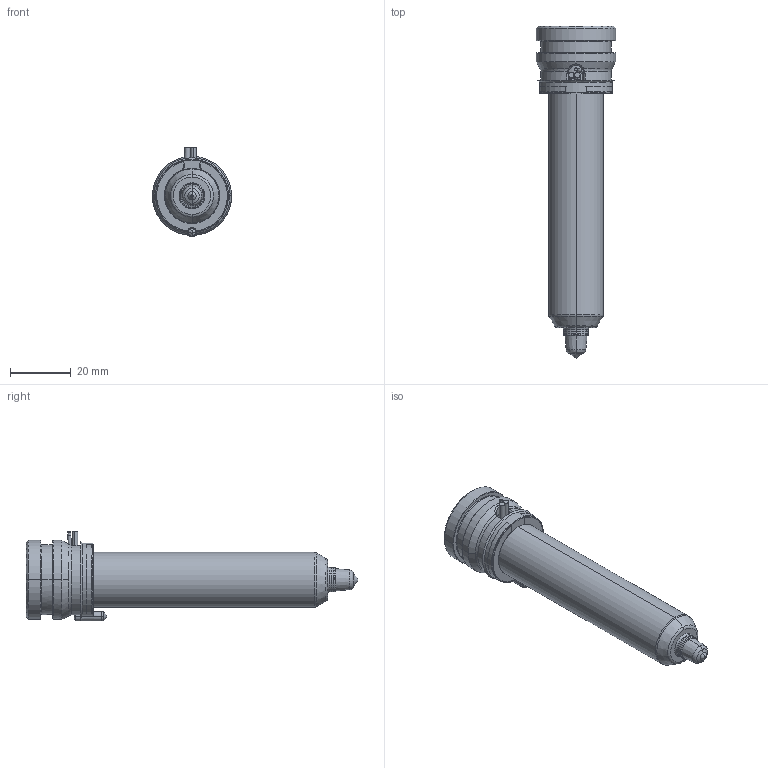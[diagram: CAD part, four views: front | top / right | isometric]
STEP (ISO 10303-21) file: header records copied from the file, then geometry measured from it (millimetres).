
FILE_DESCRIPTION((''),'2;1');
FILE_NAME('TH18091-A-1B50-PK-JG','2023-12-14T',('umhib'),('Thermoplay S.p.A.'),'PRO/ENGINEER BY PARAMETRIC TECHNOLOGY CORPORATION, 2017170','PRO/ENGINEER BY PARAMETRIC TECHNOLOGY CORPORATION, 2017170','');
FILE_SCHEMA(('CONFIG_CONTROL_DESIGN'));
Length unit declared in the file: millimetre
Products named in the file (1): TH18091-A-1B50-PK-JG
Bounding box: 26 x 109 x 29.5 mm (x, y, z)
Volume: 22356.1 mm3; surface area: 16382 mm2
Topology: 1 solids, 2 shells, 394 faces, 1026 edges, 637 vertices
Faces by surface type: cylinder 151, plane 85, cone 66, torus 54, bspline 24, sphere 12, extrusion 2
Entity records: 17998 total; most frequent: CARTESIAN_POINT 6175, ORIENTED_EDGE 2028, DIRECTION 2015, EDGE_CURVE 1016, AXIS2_PLACEMENT_3D 808, VERTEX_POINT 637, CIRCLE 439, EDGE_LOOP 414
